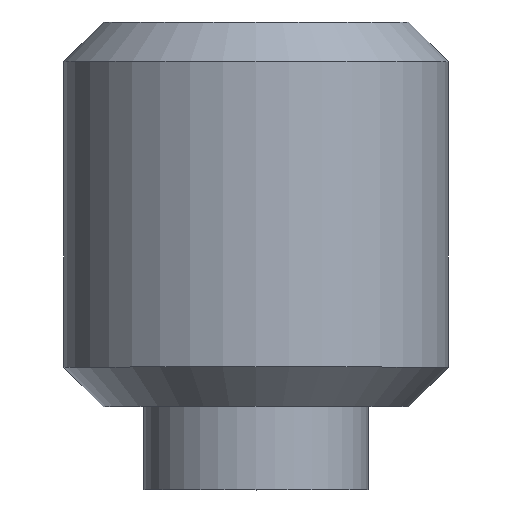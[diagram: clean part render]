
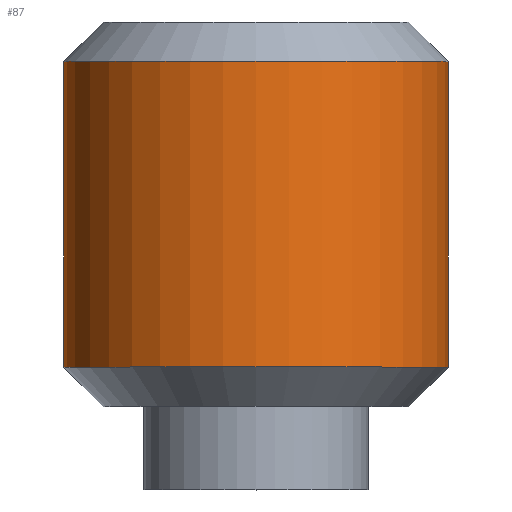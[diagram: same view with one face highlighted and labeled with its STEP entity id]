
A CAD part, top view. The second image highlights one B-rep face of the part: STEP entity #87.
In plain terms, the highlighted cylindrical face has radius 3 mm (diameter 6 mm), a full revolution.
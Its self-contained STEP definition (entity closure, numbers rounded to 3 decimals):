
#87 = ADVANCED_FACE( '', ( #118, #119 ), #120, .T. );
#118 = FACE_OUTER_BOUND( '', #152, .T. );
#119 = FACE_OUTER_BOUND( '', #153, .T. );
#120 = CYLINDRICAL_SURFACE( '', #154, 3. );
#152 = EDGE_LOOP( '', ( #238 ) );
#153 = EDGE_LOOP( '', ( #239 ) );
#154 = AXIS2_PLACEMENT_3D( '', #240, #241, #242 );
#238 = ORIENTED_EDGE( '', *, *, #270, .F. );
#239 = ORIENTED_EDGE( '', *, *, #271, .T. );
#240 = CARTESIAN_POINT( '', ( 0., 0., 0. ) );
#241 = DIRECTION( '', ( 0., 1., 0. ) );
#242 = DIRECTION( '', ( 0., 0., -1. ) );
#270 = EDGE_CURVE( '', #310, #310, #311, .T. );
#271 = EDGE_CURVE( '', #312, #312, #313, .T. );
#310 = VERTEX_POINT( '', #370 );
#311 = CIRCLE( '', #371, 3. );
#312 = VERTEX_POINT( '', #372 );
#313 = CIRCLE( '', #373, 3. );
#370 = CARTESIAN_POINT( '', ( 0., 1.913, -3. ) );
#371 = AXIS2_PLACEMENT_3D( '', #404, #405, #406 );
#372 = CARTESIAN_POINT( '', ( 0., 6.687, -3. ) );
#373 = AXIS2_PLACEMENT_3D( '', #407, #408, #409 );
#404 = CARTESIAN_POINT( '', ( 0., 1.913, 0. ) );
#405 = DIRECTION( '', ( 0., -1., 0. ) );
#406 = DIRECTION( '', ( 0., 0., -1. ) );
#407 = CARTESIAN_POINT( '', ( 0., 6.687, 0. ) );
#408 = DIRECTION( '', ( 0., -1., 0. ) );
#409 = DIRECTION( '', ( 0., 0., -1. ) );
